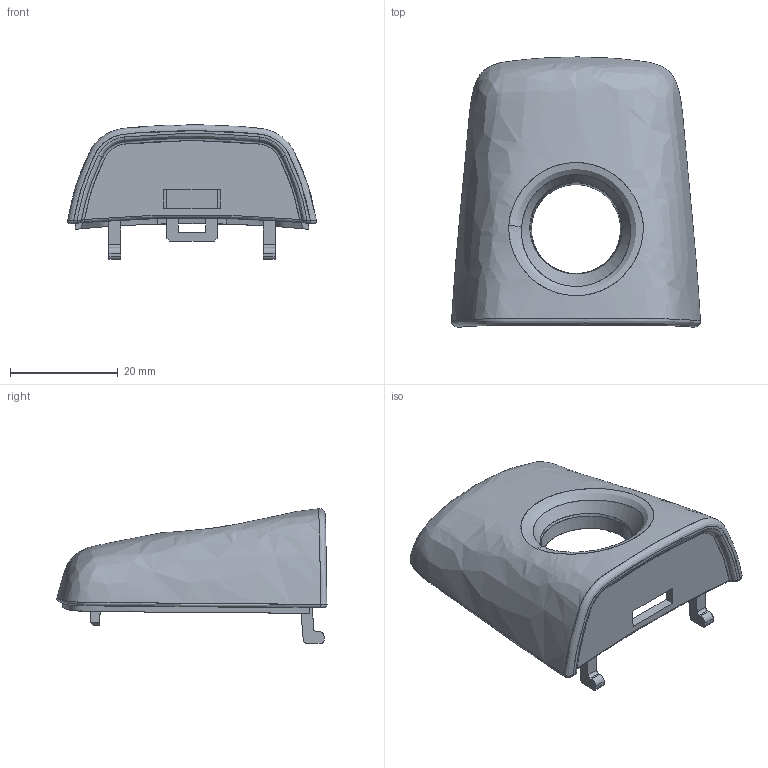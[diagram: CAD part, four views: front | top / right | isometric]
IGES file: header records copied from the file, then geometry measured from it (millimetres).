
Global section: file name: D:\yt\yt-1.igs; native system: NX V8.5; preprocessor: SIEMENS PLM Software NX 8.5; date: 20150301.214322; units: millimetre
Bounding box: 46.11 x 50.02 x 24.9 mm (x, y, z)
Surface area: 8080.7 mm2 (no closed solid volume)
Topology: 0 solids, 0 shells, 94 faces, 1190 edges, 1521 vertices
Faces by surface type: bspline 94
